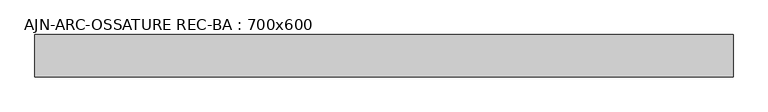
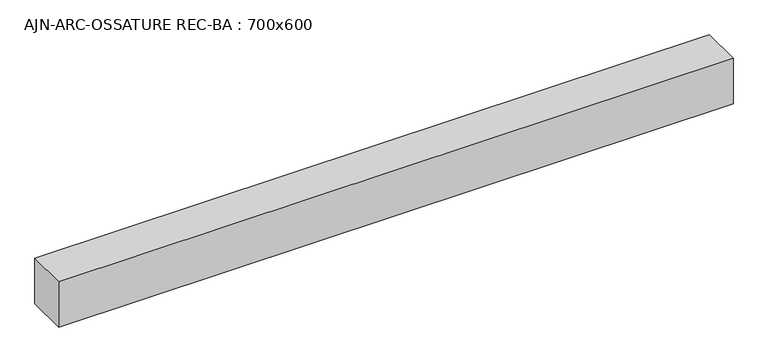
"""IFC4 building model written with IfcOpenShell, lengths in millimetres: beam geometry, AJN-ARC-OSSATURE REC-BA : 700x600."""

from ifc_helpers import new_model, si_unit, frame, origin, place, context, project, spatial, polyline, outline, extrude, source, transform, mapped, element, save


def ajn_arc_ossature_rec_ba_700x600_8adee879(model_context):
    return source(origin(), model_context, "Body", "SweptSolid", [
        extrude(outline(polyline([(4937.2999994, 300.0), (4937.2999994, -300.0), (-4937.2999994, -300.0), (-4937.2999994, 300.0), (4937.2999994, 300.0)])), frame((0.0, 0.0, -350.0), z_axis=(0.0, 0.0, 1.0), x_axis=(1.0, 0.0, 0.0)), (0.0, 0.0, 1.0), 700.0),
    ])


if __name__ == "__main__":
    model = new_model("IFC4")
    model_context = context("Model", 3, world=origin())
    ifc_project = project(units=[si_unit("LENGTHUNIT", "METRE", prefix="MILLI")], contexts=[model_context])
    site = spatial("IfcSite", under=ifc_project)
    building = spatial("IfcBuilding", under=site)
    placement = place(None, origin())
    ajn_arc_ossature_rec_ba_700x600_shape = ajn_arc_ossature_rec_ba_700x600_8adee879(model_context)
    element("IfcBeam", 1, ObjectType="AJN-ARC-OSSATURE REC-BA : 700x600", at=placement, inside=building, context=model_context, shape_type="MappedRepresentation", body=[
        mapped(ajn_arc_ossature_rec_ba_700x600_shape, transform((0.0, 0.0, 0.0), x_axis=(1.0, 0.0, 0.0), y_axis=(0.0, 1.0, 0.0), z_axis=(0.0, 0.0, 1.0))),
    ])
    save(model, "model.ifc")
